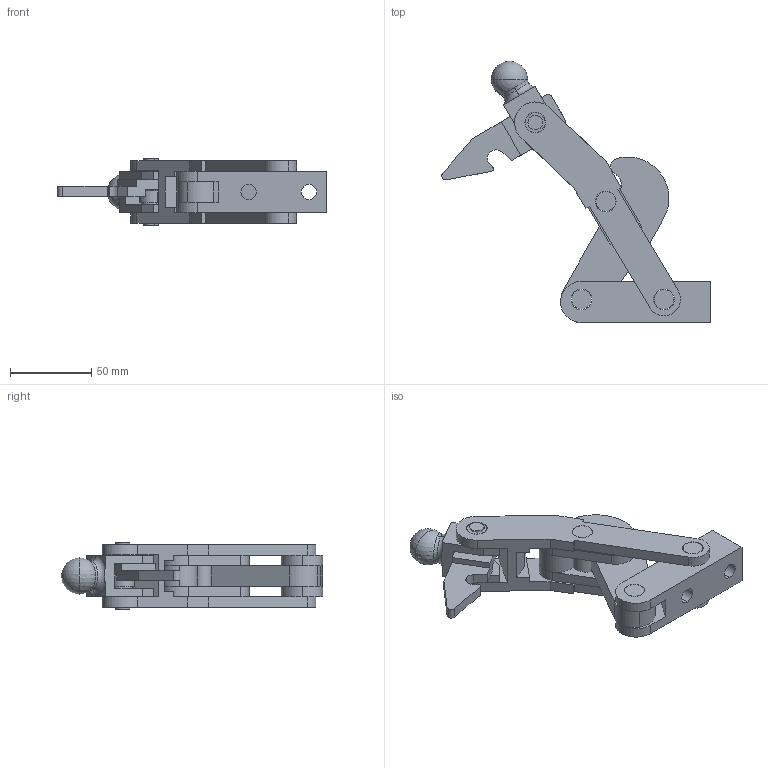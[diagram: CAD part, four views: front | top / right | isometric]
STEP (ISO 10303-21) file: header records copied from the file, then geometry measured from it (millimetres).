
FILE_DESCRIPTION( ( '' ), '1' );
FILE_NAME( 'C:\Documents and Settings\Richard Grenzke\My Documents\Wolverine Company Data\WOLVERINE CD 5_17_05\SOLIDS STEP\heavy_duty_compact\lyt1034.stp', ' ', ( '' ), ( '' ), 'ACIS Interop R16', 'Kubotek KeyCreator V5.5.1 (0454)', ' ' );
FILE_SCHEMA( ( 'CONFIG_CONTROL_DESIGN' ) );
Length unit declared in the file: inch
Products named in the file (14): 1; 2; 3; 4; 5; 6; 7; 8; 9; 10; 11; 12; 13; 14
Bounding box: 165.24 x 160.77 x 40.89 mm (x, y, z)
Volume: 179774.7 mm3; surface area: 70613.5 mm2
Topology: 13 solids, 13 shells, 210 faces, 589 edges, 404 vertices
Faces by surface type: cylinder 99, plane 99, torus 6, cone 4, sphere 2
Entity records: 7636 total; most frequent: DIRECTION 1301, CARTESIAN_POINT 1231, ORIENTED_EDGE 1170, EDGE_CURVE 585, AXIS2_PLACEMENT_3D 494, VERTEX_POINT 404, LINE 313, VECTOR 313
